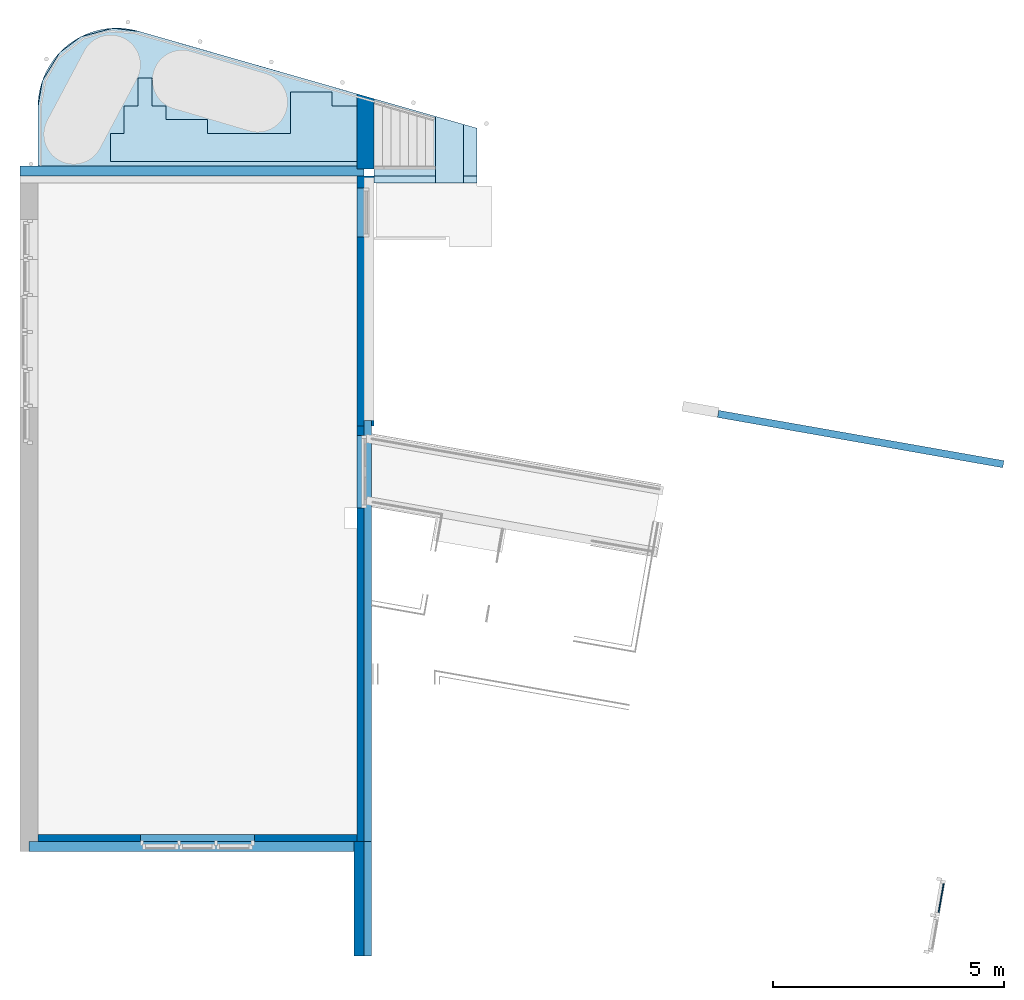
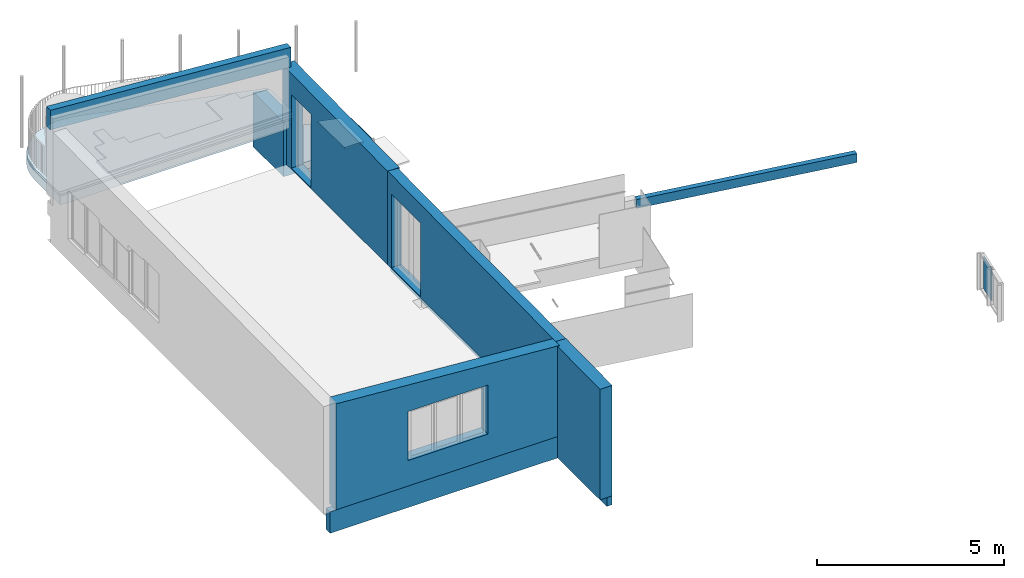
# One storey, part 4 of 10: 10 walls, 6 slabs, 1 plate, 11 openings, 2 elements without a shape of their own.
"""IFC2X3 building model written with IfcOpenShell, lengths in millimetres."""

from ifc_helpers import new_model, entity, si_unit, converted_unit, derived_unit, direction, frame, frame_2d, origin, origin_2d_with_axis, place, context, subcontext, project, spatial, polyline, circle_curve, parameter, trimmed, segment, composite_curve, rectangle, outline, extrude, clip, halfspace, bounded_halfspace, faceted_brep, source, transform, mapped, material, layer, layer_set, layer_usage, type_object, type_shapes, element, aggregate, save


model = new_model("IFC2X3")

# Units and contexts
model_context = context("Model", 3, precision=0.01, world=origin(), true_north=direction((6.12303176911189e-17, 1.0)))
body_context = subcontext(model_context, "Body", "Model", "MODEL_VIEW")
ifc_project = project(units=[si_unit("LENGTHUNIT", "METRE", prefix="MILLI"), si_unit("AREAUNIT", "SQUARE_METRE"), si_unit("VOLUMEUNIT", "CUBIC_METRE"), converted_unit("PLANEANGLEUNIT", "DEGREE", entity("IfcRatioMeasure", 0.0174532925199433), si_unit("PLANEANGLEUNIT", "RADIAN"), dimensions=[0, 0, 0, 0, 0, 0, 0]), si_unit("MASSUNIT", "GRAM", prefix="KILO"), derived_unit("MASSDENSITYUNIT", [(si_unit("MASSUNIT", "GRAM", prefix="KILO"), 1), (si_unit("LENGTHUNIT", "METRE"), -3)]), derived_unit("MOMENTOFINERTIAUNIT", [(si_unit("LENGTHUNIT", "METRE"), 4)]), si_unit("TIMEUNIT", "SECOND"), si_unit("FREQUENCYUNIT", "HERTZ"), si_unit("THERMODYNAMICTEMPERATUREUNIT", "DEGREE_CELSIUS"), derived_unit("THERMALTRANSMITTANCEUNIT", [(si_unit("MASSUNIT", "GRAM", prefix="KILO"), 1), (si_unit("THERMODYNAMICTEMPERATUREUNIT", "KELVIN"), -1), (si_unit("TIMEUNIT", "SECOND"), -3)]), derived_unit("VOLUMETRICFLOWRATEUNIT", [(si_unit("LENGTHUNIT", "METRE"), 3), (si_unit("TIMEUNIT", "SECOND"), -1)]), si_unit("ELECTRICCURRENTUNIT", "AMPERE"), si_unit("ELECTRICVOLTAGEUNIT", "VOLT"), si_unit("POWERUNIT", "WATT"), si_unit("FORCEUNIT", "NEWTON", prefix="KILO"), si_unit("ILLUMINANCEUNIT", "LUX"), si_unit("LUMINOUSFLUXUNIT", "LUMEN"), si_unit("LUMINOUSINTENSITYUNIT", "CANDELA"), derived_unit("USERDEFINED", [(si_unit("MASSUNIT", "GRAM", prefix="KILO"), -1), (si_unit("LENGTHUNIT", "METRE"), -2), (si_unit("TIMEUNIT", "SECOND"), 3), (si_unit("LUMINOUSFLUXUNIT", "LUMEN"), 1)]), derived_unit("LINEARVELOCITYUNIT", [(si_unit("LENGTHUNIT", "METRE"), 1), (si_unit("TIMEUNIT", "SECOND"), -1)]), si_unit("PRESSUREUNIT", "PASCAL"), derived_unit("USERDEFINED", [(si_unit("LENGTHUNIT", "METRE"), -2), (si_unit("MASSUNIT", "GRAM", prefix="KILO"), 1), (si_unit("TIMEUNIT", "SECOND"), -2)]), derived_unit("LINEARFORCEUNIT", [(si_unit("MASSUNIT", "GRAM", prefix="KILO"), 1), (si_unit("LENGTHUNIT", "METRE"), 1), (si_unit("TIMEUNIT", "SECOND"), -2), (si_unit("LENGTHUNIT", "METRE"), -1)]), derived_unit("PLANARFORCEUNIT", [(si_unit("MASSUNIT", "GRAM", prefix="KILO"), 1), (si_unit("LENGTHUNIT", "METRE"), 1), (si_unit("TIMEUNIT", "SECOND"), -2), (si_unit("LENGTHUNIT", "METRE"), -2)])], contexts=[model_context])

# Site, building, storey
site_placement = place(None, origin())
site = spatial("IfcSite", under=ifc_project, at=site_placement, Name="<Kadaster Gemeente>;<Kadaster nummer>;<Kadaster sectie>", CompositionType="ELEMENT")
building_placement = place(site_placement, origin())
building = spatial("IfcBuilding", under=site, at=building_placement, Name="JRCZ Middelburg", CompositionType="ELEMENT")
storey_placement = place(building_placement, frame((0.0, 0.0, 3700.0)))
storey = spatial("IfcBuildingStorey", under=building, at=storey_placement, Name="02 tweede verdieping", CompositionType="ELEMENT", Elevation=3700.0)

# Slabs
ifc_material_1 = material(Name="ISR_Multiplex")
ifc_layer_1 = layer(ifc_material_1, 18.0)
ifc_material_2 = material(Name="RBM_i2_hout_vuren_gen")
ifc_layer_2 = layer(ifc_material_2, 271.0)
ifc_layer_set_1 = layer_set([ifc_layer_1, ifc_layer_2], Name="Floor:RBM_23_FL_balklaag dak_71x271, h.o.h. 400")
ifc_layer_usage_1 = layer_usage(ifc_layer_set_1, "AXIS3", "POSITIVE", 0.0)
slab_type_1 = type_object("IfcSlabType", Name="Floor:RBM_23_FL_balklaag dak_71x271, h.o.h. 400", PredefinedType="FLOOR", material=ifc_layer_set_1)
slab_1_placement = place(storey_placement, origin())
element("IfcSlab", 1, at=slab_1_placement, inside=storey, type_object=slab_type_1, material=ifc_layer_usage_1, Name="Floor:RBM_23_FL_balklaag dak_71x271, h.o.h. 400", ObjectType="Floor:RBM_23_FL_balklaag dak_71x271, h.o.h. 400", PredefinedType="FLOOR", context=body_context, shape_type="SweptSolid", body=[
    extrude(outline(composite_curve([segment(polyline([(-1178.00466543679, -3271.43378327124), (165.145638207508, -3271.43378327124)]), True, "CONTINUOUS"), segment(trimmed(circle_curve(frame_2d((165.145638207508, -1568.35104218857), x_axis=(0.0, -1.0)), 1703.08274108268), [parameter(0.0)], [parameter(106.653579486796)], True, "PARAMETER"), True, "CONTINUOUS"), segment(polyline([(1796.7925691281, -1080.27408535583), (394.071123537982, 3811.57082594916)]), True, "CONTINUOUS"), segment(polyline([(394.071123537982, 3811.57082594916), (-1178.00466543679, 3811.57082594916)]), True, "CONTINUOUS"), segment(polyline([(-1178.00466543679, 3811.57082594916), (-1178.00466543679, -3271.43378327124)]), True, "CONTINUOUS")], self_intersect=False)), frame((13421.429174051, 25728.0046654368, 1250.0), z_axis=(0.0, 0.0, -1.0), x_axis=(0.0, 1.0, 0.0)), (0.0, 0.0, 1.0), 289.0),
])
ifc_layer_3 = layer(ifc_material_2, 246.0)
ifc_layer_set_2 = layer_set([ifc_layer_3], Name="Floor:RBM_23_FL_balklaag dak_71x246mm h.o.h.400mm")
ifc_layer_usage_2 = layer_usage(ifc_layer_set_2, "AXIS3", "POSITIVE", 0.0)
slab_type_2 = type_object("IfcSlabType", Name="Floor:RBM_23_FL_balklaag dak_71x246mm h.o.h.400mm", PredefinedType="FLOOR", material=ifc_layer_set_2)
slab_2_placement = place(storey_placement, origin())
element("IfcSlab", 2, at=slab_2_placement, inside=storey, type_object=slab_type_2, material=ifc_layer_usage_2, Name="Floor:RBM_23_FL_balklaag dak_71x246mm h.o.h.400mm", ObjectType="Floor:RBM_23_FL_balklaag dak_71x246mm h.o.h.400mm", PredefinedType="FLOOR", context=body_context, shape_type="SweptSolid", body=[
    extrude(outline(polyline([(-674.678717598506, -1116.81643041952), (994.922385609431, -1116.81643041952), (354.435049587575, 1116.81643041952), (-674.678717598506, 1116.81643041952), (-674.678717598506, -1116.81643041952)])), frame((18532.8164304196, 25074.6787175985, -290.0), z_axis=(0.0, 0.0, -1.0), x_axis=(0.0, 1.0, 0.0)), (0.0, 0.0, 1.0), 246.0),
])

# Roof, slab
roof_placement = place(storey_placement, frame((17416.0, 24250.0, -290.0)))
roof = element("IfcRoof", 3, at=roof_placement, inside=storey, Name="Basic Roof:Dak_isolatie+afwerking", ObjectType="Basic Roof:Dak_isolatie+afwerking", ShapeType="NOTDEFINED")
ifc_material_3 = material(Name="RBM_n7_dakisolatie_240mm")
ifc_layer_4 = layer(ifc_material_3, 240.0)
ifc_layer_set_3 = layer_set([ifc_layer_4], Name="Basic Roof:Dak_isolatie+afwerking")
slab_type_3 = type_object("IfcSlabType", Name="Basic Roof:Dak_isolatie+afwerking", PredefinedType="ROOF")
slab_3_placement = place(roof_placement, origin())
slab_3 = element("IfcSlab", 4, at=slab_3_placement, type_object=slab_type_3, material=ifc_layer_set_3, Name="Basic Roof:Dak_isolatie+afwerking", ObjectType="Basic Roof:Dak_isolatie+afwerking", PredefinedType="NOTDEFINED", context=body_context, shape_type="SweptSolid", body=[
    extrude(outline(polyline([(1116.81643041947, -909.800551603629), (1116.81643041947, 269.313215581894), (-1116.81643041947, 909.800551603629), (-1116.81643041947, -909.800551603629), (1116.81643041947, -909.800551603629)])), frame((1116.81643041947, 909.800551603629, 0.0)), (0.0, 0.0, 1.0), 240.0),
])
aggregate(roof, [slab_3])

# Slab
slab_type_4 = type_object("IfcSlabType", Name="Floor:RBM_23_FL_dakisolatie 30 mm afschot 15mm/m1", PredefinedType="FLOOR")
slab_4_placement = place(storey_placement, origin())
element("IfcSlab", 5, at=slab_4_placement, inside=storey, type_object=slab_type_4, Name="Floor:RBM_23_FL_dakisolatie 30 mm afschot 15mm/m1", ObjectType="Floor:RBM_23_FL_dakisolatie 30 mm afschot 15mm/m1", PredefinedType="FLOOR", context=body_context, shape_type="Brep", body=[
    faceted_brep([(17416.0, 24616.0, 1250.0), (10149.7972263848, 24616.0, 1250.0), (10149.7972263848, 25891.5576825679, 1250.0), (10198.0962399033, 26174.3185147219, 1250.0), (10246.3952534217, 26457.0793468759, 1250.0), (10339.828163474, 26609.5293102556, 1250.0), (10433.2610735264, 26761.9792736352, 1250.0), (10620.126893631, 27066.8792003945, 1250.0), (10850.1600666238, 27238.2595441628, 1250.0), (11080.1932396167, 27409.6398879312, 1250.0), (11425.8127732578, 27501.4545818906, 1250.0), (11771.432306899, 27593.2692758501, 1250.0), (11913.811750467, 27575.9570034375, 1250.0), (12056.191194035, 27558.644731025, 1250.0), (12340.950081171, 27524.0201861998, 1250.0), (17416.0, 26069.3456610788, 1250.0), (17416.0, 24616.0, 1340.0), (10149.7972263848, 24616.0, 1340.0), (12340.950081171, 27524.0201861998, 1296.379697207), (11985.0011800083, 27567.3009027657, 1295.73048645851), (11771.432306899, 27593.2692758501, 1295.34096086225), (11598.6225400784, 27547.3619288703, 1296.02957106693), (11425.8127732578, 27501.4545818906, 1296.71818127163), (11080.1932396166, 27409.6398879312, 1298.09540168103), (10850.1600666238, 27238.2595441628, 1300.66610683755), (10620.126893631, 27066.8792003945, 1303.23681199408), (10433.2610735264, 26761.9792736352, 1307.81031089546), (10246.3952534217, 26457.0793468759, 1312.38380979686), (10209.950360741, 26243.717055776, 1315.58424416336), (10149.7972263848, 25891.5576825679, 1320.86663476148), (17416.0, 26069.3456610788, 1318.19981508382)], [[[0, 1, 2, 3, 4, 5, 6, 7, 8, 9, 10, 11, 12, 13, 14, 15]], [[1, 0, 16, 17]], [[18, 19, 20, 21, 22, 23, 24, 25, 26, 27, 28, 29, 17, 16, 30]], [[1, 17, 29, 2]], [[26, 25, 7, 6, 5, 4, 27]], [[20, 19, 18, 14, 13, 12, 11]], [[29, 28, 27, 4, 3, 2]], [[7, 25, 24, 23, 9, 8]], [[11, 10, 9, 23, 22, 21, 20]], [[15, 14, 18, 30]], [[0, 15, 30, 16]]]),
])

# Curtain wall, plate
curtain_wall_type = type_object("IfcCurtainWallType", Name="Curtain Wall:NLRS_31_CW_Ontwerpkozijn 067x114 2", PredefinedType="NOTDEFINED")
curtain_wall_placement = place(storey_placement, frame((0.0, 0.0, -3700.0)))
curtain_wall = element("IfcCurtainWall", 6, at=curtain_wall_placement, inside=storey, type_object=curtain_wall_type, Name="Curtain Wall:NLRS_31_CW_Ontwerpkozijn 067x114 2", ObjectType="Curtain Wall:NLRS_31_CW_Ontwerpkozijn 067x114 2")
ifc_material_4 = material(Name="o1_glas")
plate_type = type_object("IfcPlateType", Name="System Panel:31_CWP_glas_2", PredefinedType="CURTAIN_PANEL", material=ifc_material_4)
shared_shape = source(origin(), body_context, "Body", "SweptSolid", [
    extrude(rectangle(XDim=24.0, YDim=640.999999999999, at=frame_2d((-7.99360577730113e-15, 0.0), x_axis=(1.0, 0.0))), frame((0.0, -85.0, 0.0), z_axis=(0.0, 0.0, 1.0), x_axis=(0.0, 1.0, 0.0)), (0.0, 0.0, 1.0), 1066.0),
])
type_shapes(plate_type, [shared_shape])
plate_placement = place(curtain_wall_placement, frame((29605.6772955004, 8789.41936685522, 4467.0), z_axis=(0.0, 0.0, 1.0), x_axis=(0.17364817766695, 0.984807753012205, 0.0)))
plate = element("IfcPlate", 7, at=plate_placement, type_object=plate_type, material=ifc_material_4, Name="System Panel:31_CWP_glas_2", ObjectType="System Panel:31_CWP_glas_2", context=body_context, shape_type="MappedRepresentation", body=[
    mapped(shared_shape, transform((0.0, 0.0, 0.0), scale=1.0)),
])
aggregate(curtain_wall, [plate])

# Slabs
ifc_material_5 = material(Name="RBM_f2_betontegels")
ifc_layer_5 = layer(ifc_material_5, 30.0)
ifc_material_6 = material(Name="RBM_n7_isolatie_zwevende dekvloer")
ifc_layer_6 = layer(ifc_material_6, 20.0)
ifc_layer_set_4 = layer_set([ifc_layer_5, ifc_layer_6], Name="Floor:RBM_43_FL_betontegels op dragers")
ifc_layer_usage_3 = layer_usage(ifc_layer_set_4, "AXIS3", "POSITIVE", 0.0)
slab_type_5 = type_object("IfcSlabType", Name="Floor:RBM_43_FL_betontegels op dragers", PredefinedType="FLOOR", material=ifc_layer_set_4)
slab_5_placement = place(storey_placement, origin())
element("IfcSlab", 8, at=slab_5_placement, inside=storey, type_object=slab_type_5, material=ifc_layer_usage_3, Name="Floor:RBM_43_FL_betontegels op dragers", ObjectType="Floor:RBM_43_FL_betontegels op dragers", PredefinedType="FLOOR", context=body_context, shape_type="SweptSolid", body=[
    extrude(outline(polyline([(-999.839410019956, -2166.66666666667), (-400.020073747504, -2166.66666666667), (-400.020073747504, -1866.66666666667), (199.799262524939, -1866.66666666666), (199.799262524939, -1566.66666666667), (799.979926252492, -1566.66666666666), (799.979926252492, -1266.66666666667), (199.799262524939, -1266.66666666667), (199.799262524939, -966.666666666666), (-100.020073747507, -966.666666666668), (-100.020073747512, -66.6666666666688), (-399.839410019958, -66.6666666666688), (-399.839410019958, 1733.33333333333), (499.97992625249, 1733.33333333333), (499.97992625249, 2633.33333333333), (200.16058998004, 2633.33333333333), (200.16058998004, 3533.33333333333), (-999.839410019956, 3533.33333333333), (-999.839410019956, -2166.66666666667)])), frame((13882.6666666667, 25714.8956400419, 1390.0), z_axis=(0.0, 0.0, -1.0), x_axis=(0.0, 1.0, 0.0)), (0.0, 0.0, 1.0), 49.9999999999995),
])
ifc_layer_usage_4 = layer_usage(ifc_layer_set_4, "AXIS3", "POSITIVE", 0.0)
slab_type_6 = type_object("IfcSlabType", Name="Floor:RBM_43_FL_betontegels op dragers", PredefinedType="FLOOR", material=ifc_layer_set_4)
slab_6_placement = place(storey_placement, origin())
element("IfcSlab", 9, at=slab_6_placement, inside=storey, type_object=slab_type_6, material=ifc_layer_usage_4, Name="Floor:RBM_43_FL_betontegels op dragers", ObjectType="Floor:RBM_43_FL_betontegels op dragers", PredefinedType="FLOOR", context=body_context, shape_type="SweptSolid", body=[
    extrude(outline(polyline([(-674.790204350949, -300.0), (760.814279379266, -300.0), (588.766129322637, 300.0), (-674.790204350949, 300.0), (-674.790204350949, -300.0)])), frame((19055.1482071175, 24924.7902043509, 0.0), z_axis=(0.0, 0.0, -1.0), x_axis=(0.0, 1.0, 0.0)), (0.0, 0.0, 1.0), 50.0),
])

# Wall, opening
ifc_material_7 = material(Name="RBM_f7_gips_beplating wand")
ifc_layer_7 = layer(ifc_material_7, 12.5)
ifc_material_8 = material(Name="RBM_i4_multiplex_beplating")
ifc_layer_8 = layer(ifc_material_8, 18.0)
ifc_material_9 = material(Name="RBM_n7_isolatie_hsb_270")
ifc_layer_9 = layer(ifc_material_9, 270.0)
ifc_layer_10 = layer(ifc_material_8, 18.0)
ifc_layer_set_5 = layer_set([ifc_layer_7, ifc_layer_8, ifc_layer_9, ifc_layer_10], Name="Basic Wall:22_hsb_binnenwand_gips_318,5mm")
ifc_layer_usage_5 = layer_usage(ifc_layer_set_5, "AXIS2", "NEGATIVE", 159.25)
wall_type_1 = type_object("IfcWallType", Name="Basic Wall:22_hsb_binnenwand_gips_318,5mm", PredefinedType="STANDARD", material=ifc_layer_set_5)
wall_1_placement = place(storey_placement, frame((17209.2500000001, 18984.0, -35.0), z_axis=(0.0, 0.0, 1.0), x_axis=(0.0, -1.0, 0.0)))
wall_1 = element("IfcWallStandardCase", 10, at=wall_1_placement, inside=storey, type_object=wall_type_1, material=ifc_layer_usage_5, Name="Basic Wall:22_hsb_binnenwand_gips_318,5mm", ObjectType="Basic Wall:22_hsb_binnenwand_gips_318,5mm", context=body_context, shape_type="Clipping", body=[
    clip(extrude(rectangle(XDim=8983.99999999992, YDim=318.500000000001, at=frame_2d((4491.99999999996, 0.0), x_axis=(-1.0, 0.0))), origin(), (0.0, 0.0, 1.0), 3069.06616412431), bounded_halfspace(frame((8984.0, -9.25000000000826, 2940.98293479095), z_axis=(-0.0129871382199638, -0.0736537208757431, -0.997199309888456), x_axis=(-0.173161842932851, -0.982049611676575, 0.0747899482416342)), True, frame((8984.0, -9.25000000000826, 2940.98293479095)), polyline([(0.0, 0.0), (0.0, 168.500000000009), (-8984.0, 168.500000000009), (-8984.0, 0.0), (-8984.0, -150.0), (0.0, -150.0), (0.0, 0.0)]))),
])
opening_1_placement = place(wall_1_placement, origin())
element("IfcOpeningElement", 11, at=opening_1_placement, cuts=wall_1, Name="Basic Wall:22_hsb_binnenwand_gips_318,5mm", ObjectType="Opening", context=body_context, shape_type="SweptSolid", body=[
    extrude(rectangle(XDim=2400.0, YDim=1567.0, at=origin_2d_with_axis()), frame((985.410615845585, -311.649999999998, 1235.0), z_axis=(0.0, 1.0, 0.0), x_axis=(0.0, 0.0, 1.0)), (0.0, 0.0, 1.0), 623.299999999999),
])

# Wall
ifc_material_10 = material(Name="gevel antraciet")
ifc_layer_11 = layer(ifc_material_10, 8.0)
ifc_material_11 = material(Name="ISR_Luchtspouw")
ifc_layer_12 = layer(ifc_material_11, 35.0)
ifc_layer_13 = layer(ifc_material_11, 35.0)
ifc_layer_14 = layer(ifc_material_9, 138.0)
ifc_layer_set_6 = layer_set([ifc_layer_11, ifc_layer_12, ifc_layer_13, ifc_layer_14], Name="Basic Wall:21_RBM_WA_dakrand/pas strook_rockpanel")
ifc_layer_usage_6 = layer_usage(ifc_layer_set_6, "AXIS2", "NEGATIVE", 108.0)
wall_type_2 = type_object("IfcWallType", Name="Basic Wall:21_RBM_WA_dakrand/pas strook_rockpanel", PredefinedType="STANDARD", material=ifc_layer_set_6)
wall_2_placement = place(storey_placement, frame((17050.0, 9892.0, -735.0), z_axis=(0.0, 0.0, 1.0), x_axis=(-1.0, 0.0, 0.0)))
element("IfcWallStandardCase", 12, at=wall_2_placement, inside=storey, type_object=wall_type_2, material=ifc_layer_usage_6, Name="Basic Wall:21_RBM_WA_dakrand/pas strook_rockpanel", ObjectType="Basic Wall:21_RBM_WA_dakrand/pas strook_rockpanel", context=body_context, shape_type="SweptSolid", body=[
    extrude(rectangle(XDim=7094.0, YDim=215.999999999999, at=frame_2d((3547.0, -1.00897068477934e-12), x_axis=(-1.0, 0.0))), origin(), (0.0, 0.0, 1.0), 700.0),
])

# Wall, opening
ifc_layer_usage_7 = layer_usage(ifc_layer_set_6, "AXIS2", "POSITIVE", -108.0)
wall_3_placement = place(storey_placement, frame((17200.0, 24508.0, 3096.33606714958), z_axis=(0.0, 0.0, 1.0), x_axis=(-1.0, 0.0, 0.0)))
wall_3 = element("IfcWallStandardCase", 13, at=wall_3_placement, inside=storey, type_object=wall_type_2, material=ifc_layer_usage_7, Name="Basic Wall:21_RBM_WA_dakrand/pas strook_rockpanel", ObjectType="Basic Wall:21_RBM_WA_dakrand/pas strook_rockpanel", context=body_context, shape_type="Clipping", body=[
    clip(clip(extrude(rectangle(XDim=7437.99999999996, YDim=216.000000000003, at=frame_2d((3718.99999999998, 3.5527136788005e-13), x_axis=(-1.0, 0.0))), origin(), (0.0, 0.0, 1.0), 1184.21321955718), halfspace(frame((0.0, -108.0, 640.529878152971), z_axis=(-0.0729008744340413, 0.0, 0.997339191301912), x_axis=(0.0, 1.0, 0.0)), False)), halfspace(frame((150.0, -108.0, 0.0), z_axis=(0.0, 0.0, -1.0), x_axis=(0.0, 1.0, 0.0)), False)),
])
opening_2_placement = place(wall_3_placement, origin())
element("IfcOpeningElement", 14, at=opening_2_placement, cuts=wall_3, Name="Basic Wall:21_RBM_WA_dakrand/pas strook_rockpanel", ObjectType="Opening", context=body_context, shape_type="SweptSolid", body=[
    extrude(outline(polyline([(-3644.0, -138.706972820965), (3644.0, -138.706972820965), (3644.0, 407.854931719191), (-3644.0, -130.440986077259), (-3644.0, -138.706972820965)])), frame((3794.0, 108.0, 138.706972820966), z_axis=(0.0, -1.0, 0.0), x_axis=(1.0, 0.0, 0.0)), (0.0, 0.0, 1.0), 216.0),
])

# Wall, openings
ifc_layer_15 = layer(ifc_material_10, 8.0)
ifc_layer_16 = layer(ifc_material_11, 35.0)
ifc_layer_17 = layer(ifc_material_11, 35.0)
ifc_layer_18 = layer(ifc_material_9, 270.0)
ifc_layer_19 = layer(ifc_material_8, 18.0)
ifc_layer_set_7 = layer_set([ifc_layer_15, ifc_layer_16, ifc_layer_17, ifc_layer_18, ifc_layer_19], Name="Basic Wall:21_RBM_WA_hsb_270mm_ rockpanel")
ifc_layer_usage_8 = layer_usage(ifc_layer_set_7, "AXIS2", "NEGATIVE", 183.0)
wall_type_3 = type_object("IfcWallType", Name="Basic Wall:21_RBM_WA_hsb_270mm_ rockpanel", PredefinedType="STANDARD", material=ifc_layer_set_7)
wall_4_placement = place(storey_placement, frame((17050.0, 9967.0, -35.0), z_axis=(0.0, 0.0, 1.0), x_axis=(-1.0, 0.0, 0.0)))
wall_4 = element("IfcWallStandardCase", 15, at=wall_4_placement, inside=storey, type_object=wall_type_3, material=ifc_layer_usage_8, Name="Basic Wall:21_RBM_WA_hsb_270mm_ rockpanel", ObjectType="Basic Wall:21_RBM_WA_hsb_270mm_ rockpanel", context=body_context, shape_type="Clipping", body=[
    clip(extrude(rectangle(XDim=6900.0, YDim=365.999999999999, at=frame_2d((3450.0, -4.12114786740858e-13), x_axis=(-1.0, 0.0))), origin(), (0.0, 0.0, 1.0), 3461.70003419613), halfspace(frame((0.0, -183.0, 2952.06202201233), z_axis=(-0.0736599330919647, 0.0, 0.997283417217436), x_axis=(0.0, 1.0, 0.0)), False)),
])
opening_3_placement = place(wall_4_placement, origin())
element("IfcOpeningElement", 16, at=opening_3_placement, cuts=wall_4, Name="Basic Wall:21_RBM_WA_hsb_270mm_ rockpanel", ObjectType="Opening", context=body_context, shape_type="SweptSolid", body=[
    extrude(rectangle(XDim=1600.0, YDim=774.999999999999, at=frame_2d((1.08002495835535e-12, 0.0), x_axis=(0.0, 1.0))), frame((4250.0, -335.400000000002, 1635.0), z_axis=(0.0, 1.0, 0.0), x_axis=(-1.0, 0.0, 0.0)), (0.0, 0.0, 1.0), 670.800000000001),
])
opening_4_placement = place(wall_4_placement, origin())
element("IfcOpeningElement", 17, at=opening_4_placement, cuts=wall_4, Name="Basic Wall:21_RBM_WA_hsb_270mm_ rockpanel", ObjectType="Opening", context=body_context, shape_type="SweptSolid", body=[
    extrude(rectangle(XDim=1600.0, YDim=862.999999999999, at=origin_2d_with_axis()), frame((4250.0, -335.400000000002, 1635.0), z_axis=(0.0, 1.0, 0.0), x_axis=(0.0, 0.0, 1.0)), (0.0, 0.0, 1.0), 670.800000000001),
])
opening_5_placement = place(wall_4_placement, origin())
element("IfcOpeningElement", 18, at=opening_5_placement, cuts=wall_4, Name="Basic Wall:21_RBM_WA_hsb_270mm_ rockpanel", ObjectType="Opening", context=body_context, shape_type="SweptSolid", body=[
    extrude(rectangle(XDim=1600.0, YDim=774.999999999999, at=frame_2d((1.08002495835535e-12, 0.0), x_axis=(0.0, 1.0))), frame((3450.0, -335.4, 1635.0), z_axis=(0.0, 1.0, 0.0), x_axis=(-1.0, 0.0, 0.0)), (0.0, 0.0, 1.0), 670.799999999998),
])
opening_6_placement = place(wall_4_placement, origin())
element("IfcOpeningElement", 19, at=opening_6_placement, cuts=wall_4, Name="Basic Wall:21_RBM_WA_hsb_270mm_ rockpanel", ObjectType="Opening", context=body_context, shape_type="SweptSolid", body=[
    extrude(rectangle(XDim=1600.0, YDim=774.999999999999, at=frame_2d((1.08002495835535e-12, 0.0), x_axis=(0.0, 1.0))), frame((2650.0, -335.4, 1635.0), z_axis=(0.0, 1.0, 0.0), x_axis=(-1.0, 0.0, 0.0)), (0.0, 0.0, 1.0), 670.799999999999),
])
opening_7_placement = place(wall_4_placement, origin())
element("IfcOpeningElement", 20, at=opening_7_placement, cuts=wall_4, Name="Basic Wall:21_RBM_WA_hsb_270mm_ rockpanel", ObjectType="Opening", context=body_context, shape_type="SweptSolid", body=[
    extrude(rectangle(XDim=1600.0, YDim=862.999999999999, at=origin_2d_with_axis()), frame((2650.0, -335.4, 1635.0), z_axis=(0.0, 1.0, 0.0), x_axis=(0.0, 0.0, 1.0)), (0.0, 0.0, 1.0), 670.799999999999),
])
opening_8_placement = place(wall_4_placement, origin())
element("IfcOpeningElement", 21, at=opening_8_placement, cuts=wall_4, Name="Basic Wall:21_RBM_WA_hsb_270mm_ rockpanel", ObjectType="Opening", context=body_context, shape_type="SweptSolid", body=[
    extrude(rectangle(XDim=1600.0, YDim=862.999999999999, at=origin_2d_with_axis()), frame((3450.0, -335.400000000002, 1635.0), z_axis=(0.0, 1.0, 0.0), x_axis=(0.0, 0.0, 1.0)), (0.0, 0.0, 1.0), 670.799999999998),
])

# Wall, opening
ifc_layer_usage_9 = layer_usage(ifc_layer_set_7, "AXIS2", "NEGATIVE", 183.0)
wall_5_placement = place(storey_placement, frame((17233.0, 24616.0, -35.0), z_axis=(0.0, 0.0, 1.0), x_axis=(0.0, -1.0, 0.0)))
wall_5 = element("IfcWallStandardCase", 22, at=wall_5_placement, inside=storey, type_object=wall_type_3, material=ifc_layer_usage_9, Name="Basic Wall:21_RBM_WA_hsb_270mm_ rockpanel", ObjectType="Basic Wall:21_RBM_WA_hsb_270mm_ rockpanel", context=body_context, shape_type="Clipping", body=[
    clip(clip(clip(extrude(rectangle(XDim=5632.00000000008, YDim=365.999999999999, at=frame_2d((2816.00000000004, -5.6843418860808e-14), x_axis=(-1.0, 0.0))), origin(), (0.0, 0.0, 1.0), 3131.33606714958), bounded_halfspace(frame((216.0, 183.0, 1284.77699803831), z_axis=(0.0, 0.0, 1.0), x_axis=(0.0, 1.0, 0.0)), True, frame((216.0, 183.0, 1284.77699803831), z_axis=(0.0, 0.0, 1.0), x_axis=(0.0, 1.0, 0.0)), polyline([(0.0, 0.0), (0.0, 216.0), (-366.0, 216.0), (-366.0, 0.0), (0.0, 0.0)]))), bounded_halfspace(frame((216.0, -183.0, 1284.77699803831), z_axis=(1.0, 0.0, 0.0), x_axis=(0.0, 1.0, 0.0)), True, frame((216.0, -183.0, 1284.77699803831), z_axis=(1.0, 0.0, 0.0), x_axis=(0.0, 1.0, 0.0)), polyline([(0.0, 0.0), (0.0, -449.776998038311), (0.0, -1284.77699803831), (366.0, -1284.77699803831), (366.0, 0.0), (0.0, 0.0)]))), halfspace(frame((0.0, -183.0, 3131.33606714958), z_axis=(0.0130225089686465, 0.0, 0.999915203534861), x_axis=(0.0, 1.0, 0.0)), False)),
])
opening_9_placement = place(wall_5_placement, origin())
element("IfcOpeningElement", 23, at=opening_9_placement, cuts=wall_5, Name="Basic Wall:21_RBM_WA_hsb_270mm_ rockpanel", ObjectType="Opening", context=body_context, shape_type="SweptSolid", body=[
    extrude(rectangle(XDim=2400.0, YDim=1064.0, at=origin_2d_with_axis()), frame((1010.0, -335.400000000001, 1235.0), z_axis=(0.0, 1.0, 0.0), x_axis=(0.0, 0.0, 1.0)), (0.0, 0.0, 1.0), 670.799999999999),
])

ifc_layer_usage_10 = layer_usage(ifc_layer_set_7, "AXIS2", "NEGATIVE", 183.0)
wall_6_placement = place(storey_placement, frame((17233.0, 26174.5504747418, -536.0), z_axis=(0.0, 0.0, 1.0), x_axis=(0.0, -1.0, 0.0)))
wall_6 = element("IfcWallStandardCase", 24, at=wall_6_placement, inside=storey, type_object=wall_type_3, material=ifc_layer_usage_10, Name="Basic Wall:21_RBM_WA_hsb_270mm_ rockpanel", ObjectType="Basic Wall:21_RBM_WA_hsb_270mm_ rockpanel", context=body_context, shape_type="SweptSolid", body=[
    extrude(outline(polyline([(1624.55047474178, -183.0), (1624.55047474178, 183.0), (104.949371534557, 183.0), (0.0, -183.0), (1624.55047474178, -183.0)])), origin(), (0.0, 0.0, 1.0), 1785.77699803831),
])
opening_10_placement = place(wall_6_placement, origin())
element("IfcOpeningElement", 25, at=opening_10_placement, cuts=wall_6, Name="Basic Wall:21_RBM_WA_hsb_270mm_ rockpanel", ObjectType="Opening", context=body_context, shape_type="SweptSolid", body=[
    extrude(rectangle(XDim=2400.0, YDim=1064.0, at=origin_2d_with_axis()), frame((2568.5504747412, -335.400000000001, 1736.0), z_axis=(0.0, 1.0, 0.0), x_axis=(0.0, 0.0, 1.0)), (0.0, 0.0, 1.0), 670.799999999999),
])

# Walls
ifc_layer_20 = layer(ifc_material_10, 8.0)
ifc_layer_21 = layer(ifc_material_11, 35.0)
ifc_layer_22 = layer(ifc_material_11, 35.0)
ifc_layer_23 = layer(ifc_material_9, 270.0)
ifc_layer_24 = layer(ifc_material_8, 18.0)
ifc_layer_25 = layer(ifc_material_7, 12.5)
ifc_layer_set_8 = layer_set([ifc_layer_20, ifc_layer_21, ifc_layer_22, ifc_layer_23, ifc_layer_24, ifc_layer_25], Name="Basic Wall:21_RBM_WA_hsb_270mm + rockpanel +afwerking gips binnen")
ifc_layer_usage_11 = layer_usage(ifc_layer_set_8, "AXIS2", "NEGATIVE", 189.25)
wall_type_4 = type_object("IfcWallType", Name="Basic Wall:21_RBM_WA_hsb_270mm + rockpanel +afwerking gips binnen", PredefinedType="STANDARD", material=ifc_layer_set_8)
wall_7_placement = place(storey_placement, frame((17179.2500000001, 7523.45407694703, -735.0), z_axis=(0.0, 0.0, 1.0), x_axis=(0.0, 1.0, 0.0)))
element("IfcWallStandardCase", 26, at=wall_7_placement, inside=storey, type_object=wall_type_4, material=ifc_layer_usage_11, Name="Basic Wall:21_RBM_WA_hsb_270mm + rockpanel +afwerking gips binnen", ObjectType="Basic Wall:21_RBM_WA_hsb_270mm + rockpanel +afwerking gips binnen", context=body_context, shape_type="Clipping", body=[
    clip(extrude(rectangle(XDim=2476.54592305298, YDim=378.500000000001, at=frame_2d((1238.27296152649, -1.4210854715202e-14), x_axis=(-1.0, 0.0))), origin(), (0.0, 0.0, 1.0), 3640.98432988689), halfspace(frame((0.0, -189.25, 3608.698762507), z_axis=(-0.0130354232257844, 0.0, 0.999915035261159), x_axis=(0.0, 1.0, 0.0)), False)),
])
ifc_layer_26 = layer(ifc_material_9, 132.0)
ifc_layer_27 = layer(ifc_material_8, 18.0)
ifc_layer_28 = layer(ifc_material_7, 12.5)
ifc_layer_set_9 = layer_set([ifc_layer_26, ifc_layer_27, ifc_layer_28], Name="Basic Wall:22_hsb_270 passtrook + gips")
ifc_layer_usage_12 = layer_usage(ifc_layer_set_9, "AXIS2", "NEGATIVE", 81.25)
wall_type_5 = type_object("IfcWallType", Name="Basic Wall:22_hsb_270 passtrook + gips", PredefinedType="STANDARD", material=ifc_layer_set_9)
wall_8_placement = place(storey_placement, frame((17287.2500000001, 7523.45407694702, -1024.0), z_axis=(0.0, 0.0, 1.0), x_axis=(0.0, 1.0, 0.0)))
element("IfcWallStandardCase", 27, at=wall_8_placement, inside=storey, type_object=wall_type_5, material=ifc_layer_usage_12, Name="Basic Wall:22_hsb_270 passtrook + gips", ObjectType="Basic Wall:22_hsb_270 passtrook + gips", context=body_context, shape_type="SweptSolid", body=[
    extrude(rectangle(XDim=2476.54592305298, YDim=162.500000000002, at=frame_2d((1238.27296152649, -2.1316282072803e-14), x_axis=(-1.0, 0.0))), origin(), (0.0, 0.0, 1.0), 288.999999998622),
])

# Wall, opening
ifc_layer_usage_13 = layer_usage(ifc_layer_set_9, "AXIS2", "POSITIVE", -81.25)
wall_9_placement = place(storey_placement, frame((17287.2500000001, 19103.6233878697, -355.0), z_axis=(0.0, 0.0, 1.0), x_axis=(0.0, -1.0, 0.0)))
wall_9 = element("IfcWallStandardCase", 28, at=wall_9_placement, inside=storey, type_object=wall_type_5, material=ifc_layer_usage_13, Name="Basic Wall:22_hsb_270 passtrook + gips", ObjectType="Basic Wall:22_hsb_270 passtrook + gips", context=body_context, shape_type="Clipping", body=[
    clip(extrude(rectangle(XDim=9103.62338786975, YDim=162.500000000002, at=frame_2d((4551.81169393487, -9.2370555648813e-14), x_axis=(-1.0, 0.0))), origin(), (0.0, 0.0, 1.0), 320.0), halfspace(frame((0.0, -81.2499999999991, 320.0), z_axis=(0.0, 0.0, 1.0), x_axis=(0.0, 1.0, 0.0)), False)),
])
opening_11_placement = place(wall_9_placement, origin())
element("IfcOpeningElement", 29, at=opening_11_placement, cuts=wall_9, Name="Basic Wall:22_hsb_270 passtrook + gips", ObjectType="Opening", context=body_context, shape_type="SweptSolid", body=[
    extrude(rectangle(XDim=2400.0, YDim=1567.0, at=origin_2d_with_axis()), frame((1105.03400371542, -233.649999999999, 1555.0), z_axis=(0.0, 1.0, 0.0), x_axis=(0.0, 0.0, 1.0)), (0.0, 0.0, 1.0), 467.3),
])

# Wall
ifc_layer_29 = layer(ifc_material_9, 138.0)
ifc_layer_30 = layer(ifc_material_8, 18.0)
ifc_layer_set_10 = layer_set([ifc_layer_29, ifc_layer_30], Name="Basic Wall:22_hsb_270 passtrook + 6")
ifc_layer_usage_14 = layer_usage(ifc_layer_set_10, "AXIS2", "POSITIVE", -78.0)
wall_type_6 = type_object("IfcWallType", Name="Basic Wall:22_hsb_270 passtrook + 6", PredefinedType="STANDARD", material=ifc_layer_set_10)
wall_10_placement = place(storey_placement, frame((24865.1752848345, 19249.5112008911, -1035.0), z_axis=(0.0, 0.0, 1.0), x_axis=(0.984807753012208, -0.173648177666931, 0.0)))
element("IfcWallStandardCase", 30, at=wall_10_placement, inside=storey, type_object=wall_type_6, material=ifc_layer_usage_14, Name="Basic Wall:22_hsb_270 passtrook + 6", ObjectType="Basic Wall:22_hsb_270 passtrook + 6", context=body_context, shape_type="SweptSolid", body=[
    extrude(rectangle(XDim=6265.85901848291, YDim=156.000000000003, at=frame_2d((3132.92950924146, 5.32907051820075e-13), x_axis=(-1.0, 0.0))), origin(), (0.0, 0.0, 1.0), 289.999999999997),
])

save(model, "model.ifc")
